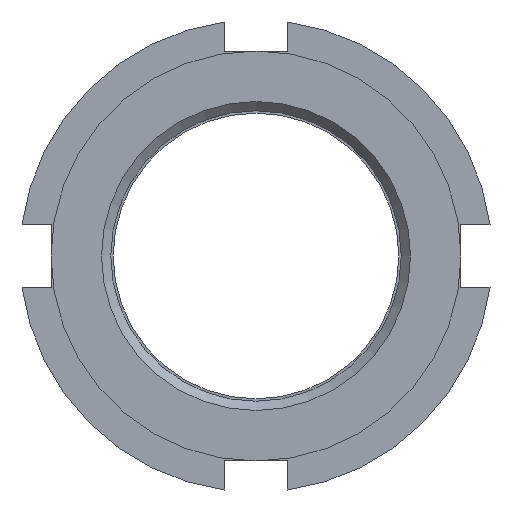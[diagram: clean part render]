
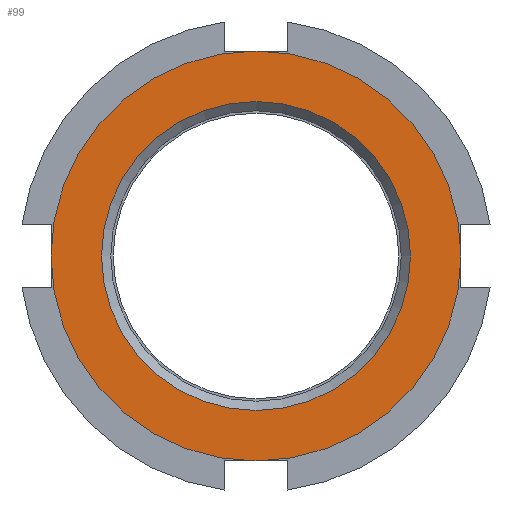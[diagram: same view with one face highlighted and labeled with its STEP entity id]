
A CAD part, left-side view. The second image highlights one B-rep face of the part: STEP entity #99.
In plain terms, the highlighted planar face has unit normal (-1, 0, 0).
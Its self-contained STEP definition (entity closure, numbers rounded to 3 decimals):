
#99 = ADVANCED_FACE( '', ( #167, #168 ), #169, .F. );
#167 = FACE_OUTER_BOUND( '', #245, .T. );
#168 = FACE_BOUND( '', #246, .T. );
#169 = PLANE( '', #247 );
#245 = EDGE_LOOP( '', ( #438 ) );
#246 = EDGE_LOOP( '', ( #439 ) );
#247 = AXIS2_PLACEMENT_3D( '', #440, #441, #442 );
#438 = ORIENTED_EDGE( '', *, *, #569, .F. );
#439 = ORIENTED_EDGE( '', *, *, #549, .T. );
#440 = CARTESIAN_POINT( '', ( 0., 0., 0. ) );
#441 = DIRECTION( '', ( 1., 0., 0. ) );
#442 = DIRECTION( '', ( 0., 0., -1. ) );
#549 = EDGE_CURVE( '', #654, #654, #655, .T. );
#569 = EDGE_CURVE( '', #682, #682, #683, .T. );
#654 = VERTEX_POINT( '', #827 );
#655 = CIRCLE( '', #828, 12.438 );
#682 = VERTEX_POINT( '', #863 );
#683 = CIRCLE( '', #864, 16.5 );
#827 = CARTESIAN_POINT( '', ( 0., 0., -12.438 ) );
#828 = AXIS2_PLACEMENT_3D( '', #944, #945, #946 );
#863 = CARTESIAN_POINT( '', ( 0., 0., -16.5 ) );
#864 = AXIS2_PLACEMENT_3D( '', #991, #992, #993 );
#944 = CARTESIAN_POINT( '', ( 0., 0., 0. ) );
#945 = DIRECTION( '', ( 1., 0., 0. ) );
#946 = DIRECTION( '', ( 0., 0., -1. ) );
#991 = CARTESIAN_POINT( '', ( 0., 0., 0. ) );
#992 = DIRECTION( '', ( 1., 0., 0. ) );
#993 = DIRECTION( '', ( 0., 0., -1. ) );
